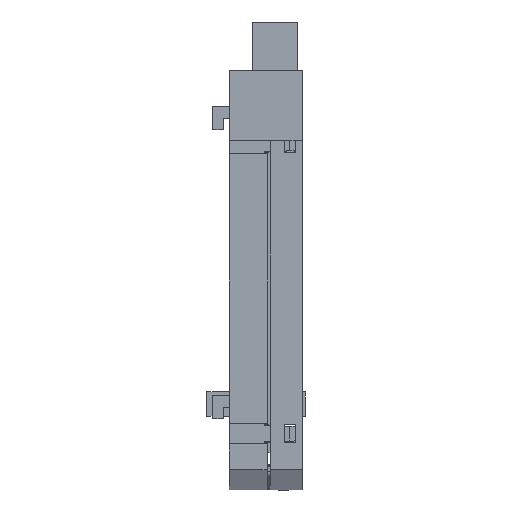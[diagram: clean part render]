
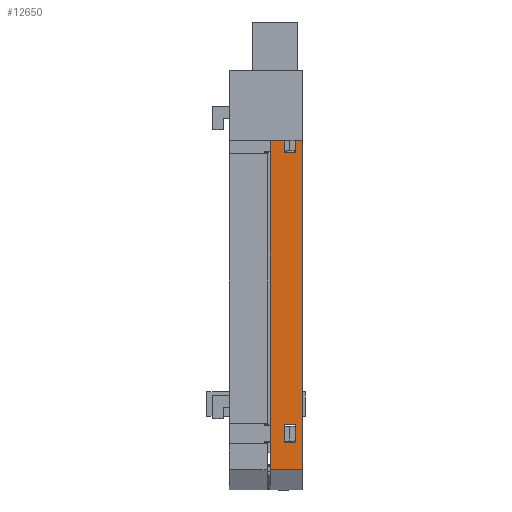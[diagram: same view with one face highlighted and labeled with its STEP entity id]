
A CAD part, front view. The second image highlights one B-rep face of the part: STEP entity #12650.
In plain terms, the highlighted planar face has unit normal (0, -1, 0).
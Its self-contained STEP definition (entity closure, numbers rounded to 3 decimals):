
#411 = EDGE_CURVE ( 'NONE', #18764, #17197, #12128, .T. ) ;
#467 = VECTOR ( 'NONE', #21777, 1000. ) ;
#1145 = LINE ( 'NONE', #18813, #27333 ) ;
#2042 = CARTESIAN_POINT ( 'NONE',  ( 2.4, 0., -10.945 ) ) ;
#2082 = CARTESIAN_POINT ( 'NONE',  ( 5.5, 0., 0. ) ) ;
#2133 = CARTESIAN_POINT ( 'NONE',  ( 0., 0., 0. ) ) ;
#2441 = EDGE_CURVE ( 'NONE', #23551, #18764, #13395, .T. ) ;
#2647 = ORIENTED_EDGE ( 'NONE', *, *, #411, .T. ) ;
#2911 = ORIENTED_EDGE ( 'NONE', *, *, #23724, .T. ) ;
#3183 = CARTESIAN_POINT ( 'NONE',  ( 4.4, 0., -57.545 ) ) ;
#3976 = ORIENTED_EDGE ( 'NONE', *, *, #29897, .T. ) ;
#4537 = DIRECTION ( 'NONE',  ( 0., 0., 1. ) ) ;
#5344 = DIRECTION ( 'NONE',  ( 1., 0., 0. ) ) ;
#5480 = ORIENTED_EDGE ( 'NONE', *, *, #2441, .T. ) ;
#5583 = VECTOR ( 'NONE', #20849, 1000. ) ;
#5784 = CARTESIAN_POINT ( 'NONE',  ( 5.5, 0., 0. ) ) ;
#6093 = EDGE_CURVE ( 'NONE', #21075, #23551, #11951, .T. ) ;
#6288 = EDGE_LOOP ( 'NONE', ( #31136, #17332, #10084, #17646 ) ) ;
#6385 = DIRECTION ( 'NONE',  ( -1., 0., 0. ) ) ;
#7338 = EDGE_CURVE ( 'NONE', #14489, #10592, #9887, .T. ) ;
#8017 = VECTOR ( 'NONE', #4537, 1000. ) ;
#8284 = VERTEX_POINT ( 'NONE', #31871 ) ;
#8888 = DIRECTION ( 'NONE',  ( 1., 0., 0. ) ) ;
#9785 = EDGE_LOOP ( 'NONE', ( #3976, #28262, #5480, #2647 ) ) ;
#9878 = FACE_BOUND ( 'NONE', #28464, .T. ) ;
#9887 = LINE ( 'NONE', #5784, #29525 ) ;
#10084 = ORIENTED_EDGE ( 'NONE', *, *, #29957, .F. ) ;
#10350 = PLANE ( 'NONE',  #12494 ) ;
#10592 = VERTEX_POINT ( 'NONE', #29809 ) ;
#10936 = CARTESIAN_POINT ( 'NONE',  ( 5.5, 0., -65.25 ) ) ;
#11093 = VECTOR ( 'NONE', #28836, 1000. ) ;
#11767 = LINE ( 'NONE', #24639, #24794 ) ;
#11949 = DIRECTION ( 'NONE',  ( -1., 0., 0. ) ) ;
#11951 = LINE ( 'NONE', #28449, #24220 ) ;
#12128 = LINE ( 'NONE', #31002, #18592 ) ;
#12494 = AXIS2_PLACEMENT_3D ( 'NONE', #12858, #30047, #15306 ) ;
#12650 = ADVANCED_FACE ( 'NONE', ( #22139, #9878, #28731 ), #10350, .F. ) ;
#12858 = CARTESIAN_POINT ( 'NONE',  ( 5.5, 0., 0. ) ) ;
#13395 = LINE ( 'NONE', #31821, #25705 ) ;
#13938 = VERTEX_POINT ( 'NONE', #17520 ) ;
#14363 = CARTESIAN_POINT ( 'NONE',  ( 0., 0., -65.25 ) ) ;
#14489 = VERTEX_POINT ( 'NONE', #2082 ) ;
#14581 = LINE ( 'NONE', #31525, #8017 ) ;
#15306 = DIRECTION ( 'NONE',  ( 0., 0., 1. ) ) ;
#15328 = EDGE_CURVE ( 'NONE', #8284, #22806, #20455, .T. ) ;
#15796 = CARTESIAN_POINT ( 'NONE',  ( 4.4, 0., -10.945 ) ) ;
#15955 = CARTESIAN_POINT ( 'NONE',  ( 5.5, 0., 0. ) ) ;
#17197 = VERTEX_POINT ( 'NONE', #2042 ) ;
#17332 = ORIENTED_EDGE ( 'NONE', *, *, #25359, .F. ) ;
#17520 = CARTESIAN_POINT ( 'NONE',  ( 2.4, 0., -60.645 ) ) ;
#17522 = CARTESIAN_POINT ( 'NONE',  ( 4.4, 0., -60.645 ) ) ;
#17585 = CARTESIAN_POINT ( 'NONE',  ( 2.4, 0., -57.545 ) ) ;
#17646 = ORIENTED_EDGE ( 'NONE', *, *, #7338, .T. ) ;
#18195 = ORIENTED_EDGE ( 'NONE', *, *, #23146, .T. ) ;
#18278 = LINE ( 'NONE', #26774, #31435 ) ;
#18592 = VECTOR ( 'NONE', #6385, 1000. ) ;
#18614 = LINE ( 'NONE', #15955, #5583 ) ;
#18764 = VERTEX_POINT ( 'NONE', #15796 ) ;
#18813 = CARTESIAN_POINT ( 'NONE',  ( 4.4, 0., -60.645 ) ) ;
#18940 = VECTOR ( 'NONE', #5344, 1000. ) ;
#20455 = LINE ( 'NONE', #17585, #18940 ) ;
#20849 = DIRECTION ( 'NONE',  ( 0., 0., -1. ) ) ;
#21075 = VERTEX_POINT ( 'NONE', #25089 ) ;
#21285 = DIRECTION ( 'NONE',  ( 0., 0., -1. ) ) ;
#21668 = VERTEX_POINT ( 'NONE', #17522 ) ;
#21777 = DIRECTION ( 'NONE',  ( 0., 0., -1. ) ) ;
#22139 = FACE_BOUND ( 'NONE', #9785, .T. ) ;
#22549 = EDGE_CURVE ( 'NONE', #10592, #23119, #26627, .T. ) ;
#22806 = VERTEX_POINT ( 'NONE', #3183 ) ;
#22944 = DIRECTION ( 'NONE',  ( -1., 0., 0. ) ) ;
#23119 = VERTEX_POINT ( 'NONE', #14363 ) ;
#23146 = EDGE_CURVE ( 'NONE', #22806, #21668, #1145, .T. ) ;
#23445 = ORIENTED_EDGE ( 'NONE', *, *, #15328, .T. ) ;
#23551 = VERTEX_POINT ( 'NONE', #25915 ) ;
#23665 = EDGE_CURVE ( 'NONE', #21668, #13938, #30733, .T. ) ;
#23724 = EDGE_CURVE ( 'NONE', #13938, #8284, #14581, .T. ) ;
#24038 = VERTEX_POINT ( 'NONE', #10936 ) ;
#24220 = VECTOR ( 'NONE', #8888, 1000. ) ;
#24639 = CARTESIAN_POINT ( 'NONE',  ( 2.4, 0., -10.945 ) ) ;
#24794 = VECTOR ( 'NONE', #27467, 1000. ) ;
#24910 = ORIENTED_EDGE ( 'NONE', *, *, #23665, .T. ) ;
#25089 = CARTESIAN_POINT ( 'NONE',  ( 2.4, 0., -7.845 ) ) ;
#25359 = EDGE_CURVE ( 'NONE', #24038, #23119, #18278, .T. ) ;
#25705 = VECTOR ( 'NONE', #29459, 1000. ) ;
#25915 = CARTESIAN_POINT ( 'NONE',  ( 4.4, 0., -7.845 ) ) ;
#26344 = CARTESIAN_POINT ( 'NONE',  ( 2.4, 0., -60.645 ) ) ;
#26627 = LINE ( 'NONE', #2133, #467 ) ;
#26774 = CARTESIAN_POINT ( 'NONE',  ( 5.5, 0., -65.25 ) ) ;
#27333 = VECTOR ( 'NONE', #21285, 1000. ) ;
#27467 = DIRECTION ( 'NONE',  ( 0., 0., 1. ) ) ;
#28262 = ORIENTED_EDGE ( 'NONE', *, *, #6093, .T. ) ;
#28449 = CARTESIAN_POINT ( 'NONE',  ( 2.4, 0., -7.845 ) ) ;
#28464 = EDGE_LOOP ( 'NONE', ( #24910, #2911, #23445, #18195 ) ) ;
#28731 = FACE_OUTER_BOUND ( 'NONE', #6288, .T. ) ;
#28836 = DIRECTION ( 'NONE',  ( -1., 0., 0. ) ) ;
#29459 = DIRECTION ( 'NONE',  ( 0., 0., -1. ) ) ;
#29525 = VECTOR ( 'NONE', #22944, 1000. ) ;
#29809 = CARTESIAN_POINT ( 'NONE',  ( 0., 0., 0. ) ) ;
#29897 = EDGE_CURVE ( 'NONE', #17197, #21075, #11767, .T. ) ;
#29957 = EDGE_CURVE ( 'NONE', #14489, #24038, #18614, .T. ) ;
#30047 = DIRECTION ( 'NONE',  ( 0., 1., 0. ) ) ;
#30733 = LINE ( 'NONE', #26344, #11093 ) ;
#31002 = CARTESIAN_POINT ( 'NONE',  ( 2.4, 0., -10.945 ) ) ;
#31136 = ORIENTED_EDGE ( 'NONE', *, *, #22549, .T. ) ;
#31435 = VECTOR ( 'NONE', #11949, 1000. ) ;
#31525 = CARTESIAN_POINT ( 'NONE',  ( 2.4, 0., -60.645 ) ) ;
#31821 = CARTESIAN_POINT ( 'NONE',  ( 4.4, 0., -10.945 ) ) ;
#31871 = CARTESIAN_POINT ( 'NONE',  ( 2.4, 0., -57.545 ) ) ;
